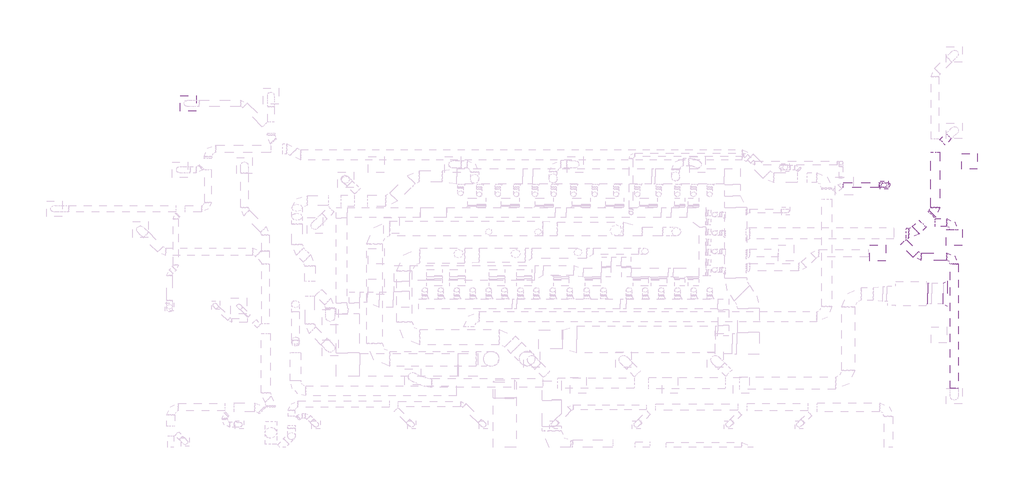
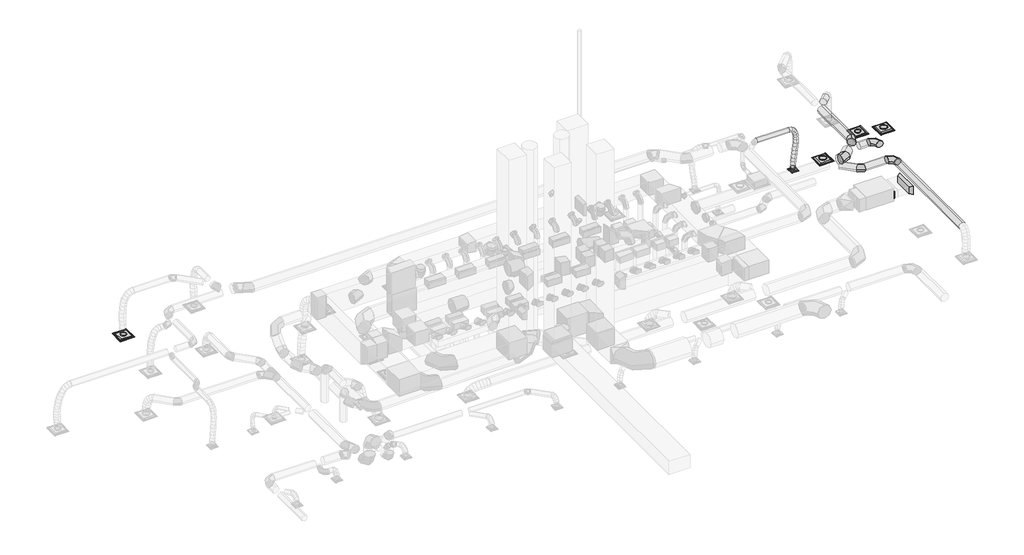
# One storey, part 31 of 33: 11 duct segments, 8 duct fittings, 5 air terminals.
"""IFC4 building model written with IfcOpenShell, lengths in millimetres."""

from ifc_helpers import new_model, si_unit, point, frame, frame_2d, origin, place, context, project, spatial, circle_curve, ellipse_curve, trimmed, segment, composite_curve, outline, extrude, transform, mapped, element, save
from ifc_brep_helpers import plane_surface, cylinder_surface, advanced_brep
from components import air_terminal_a17ada07, par_aa_06_12x12_e7d1e0c0, par_aa_10_24x24_32668ffe, rectangular_transition_angle_45_degree_4921c507, rectangular_transition_angle_60_degree_5c557b6e, round_elbow_1_d_28128332, round_elbow_1_d_30de4f45, round_elbow_1_d_146a3901, round_elbow_1_d_281bc45b, round_transition_angle_45_degree_998e22e1

model = new_model("IFC4")

# Units and contexts
model_context = context("Model", 3, world=origin())
ifc_project = project(units=[si_unit("LENGTHUNIT", "METRE", prefix="MILLI")], contexts=[model_context])

# Site, building, storey
site = spatial("IfcSite", under=ifc_project)
building = spatial("IfcBuilding", under=site)
storey = spatial("IfcBuildingStorey", under=building, Name="T.O. SLAB - 1ST", Elevation=-25.4)

# Air terminals
placement = place(None, origin())
air_terminal_shape = air_terminal_a17ada07(model_context)
element("IfcAirTerminal", 1, ObjectType="Titus-Round_Neck_Supply_Diffuser-PCS_Surface_Mount : PCS AA-12_24x24", at=placement, inside=storey, context=model_context, shape_type="MappedRepresentation", body=[
    mapped(air_terminal_shape, transform((33267.65, 27237.2115966, 4940.3), x_axis=(1.0, 0.0, 0.0), y_axis=(0.0, -1.0, 0.0), z_axis=(0.0, 0.0, -1.0))),
])
element("IfcAirTerminal", 2, ObjectType="Titus-Round_Neck_Supply_Diffuser-PCS_Surface_Mount : PCS AA-12_24x24", at=placement, inside=storey, context=model_context, shape_type="MappedRepresentation", body=[
    mapped(air_terminal_shape, transform((36315.65, 27856.3365966, 4940.3), x_axis=(1.0, 0.0, 0.0), y_axis=(0.0, -1.0, 0.0), z_axis=(0.0, 0.0, -1.0))),
])
par_aa_06_12x12_shape = par_aa_06_12x12_e7d1e0c0(model_context)
element("IfcAirTerminal", 3, ObjectType="Titus-Round_Neck_Exhaust_Diffuser-PAR_Surface_Mount : PAR AA-06_12x12", at=placement, inside=storey, context=model_context, shape_type="MappedRepresentation", body=[
    mapped(par_aa_06_12x12_shape, transform((33520.2823726, 29949.5108734, 2717.8), x_axis=(0.0, -1.0, 0.0), y_axis=(-1.0, 0.0, 0.0), z_axis=(0.0, 0.0, -1.0))),
])
par_aa_10_24x24_shape = par_aa_10_24x24_32668ffe(model_context)
element("IfcAirTerminal", 4, ObjectType="Titus-Round_Neck_Return_Diffuser-PAR_Surface_Mount : PAR AA-10_24x24", at=placement, inside=storey, context=model_context, shape_type="MappedRepresentation", body=[
    mapped(par_aa_10_24x24_shape, transform((36925.2541966, 30894.8115966, 2717.8), x_axis=(1.0, 0.0, 0.0), y_axis=(0.0, -1.0, 0.0), z_axis=(0.0, 0.0, -1.0))),
])
element("IfcAirTerminal", 5, ObjectType="Titus-Round_Neck_Exhaust_Diffuser-PAR_Surface_Mount : PAR AA-10_24x24", at=placement, inside=storey, context=model_context, shape_type="MappedRepresentation", body=[
    mapped(par_aa_10_24x24_shape, transform((5790.3208873, 33207.8645024, 2717.8), x_axis=(1.0, 0.0, 0.0), y_axis=(0.0, -1.0, 0.0), z_axis=(0.0, 0.0, -1.0))),
])

# Duct fittings
rectangular_transition_angle_45_degree_shape = rectangular_transition_angle_45_degree_4921c507(model_context)
element("IfcDuctFitting", 6, ObjectType="Rectangular Transition - Angle : 45 Degree", at=placement, inside=storey, context=model_context, shape_type="MappedRepresentation", body=[
    mapped(rectangular_transition_angle_45_degree_shape, transform((35250.8247003, 25617.7605666, 3814.7749971), x_axis=(1.0, 0.0, 0.0), y_axis=(0.0, 1.0, 0.0), z_axis=(0.0, 0.0, 1.0))),
])
rectangular_transition_angle_60_degree_shape = rectangular_transition_angle_60_degree_5c557b6e(model_context)
element("IfcDuctFitting", 7, ObjectType="Rectangular Transition - Angle : 60 Degree", at=placement, inside=storey, context=model_context, shape_type="MappedRepresentation", body=[
    mapped(rectangular_transition_angle_60_degree_shape, transform((36038.7688762, 25617.7605666, 3809.2900175), x_axis=(-0.9999999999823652, 0.0, -5.9388217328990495e-06), y_axis=(0.0, -1.0, 0.0), z_axis=(-5.9388217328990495e-06, 0.0, 0.9999999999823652))),
])
round_elbow_1_d_shape = round_elbow_1_d_28128332(model_context)
element("IfcDuctFitting", 8, ObjectType="Round Elbow : 1 D", at=placement, inside=storey, context=model_context, shape_type="MappedRepresentation", body=[
    mapped(round_elbow_1_d_shape, transform((34868.0558417, 27096.7603801, 4038.6), x_axis=(0.7071067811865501, -0.707106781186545, 0.0), y_axis=(0.707106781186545, 0.7071067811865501, 0.0), z_axis=(0.0, 0.0, 1.0))),
])
round_elbow_1_d_2_shape = round_elbow_1_d_30de4f45(model_context)
element("IfcDuctFitting", 9, ObjectType="Round Elbow : 1 D", at=placement, inside=storey, context=model_context, shape_type="MappedRepresentation", body=[
    mapped(round_elbow_1_d_2_shape, transform((34668.8369682, 28028.7984, 4038.6), x_axis=(1.0, 0.0, 0.0), y_axis=(0.0, 1.0, 0.0), z_axis=(0.0, 0.0, 1.0))),
])
round_elbow_1_d_3_shape = round_elbow_1_d_146a3901(model_context)
element("IfcDuctFitting", 10, ObjectType="Round Elbow : 1 D", at=placement, inside=storey, context=model_context, shape_type="MappedRepresentation", body=[
    mapped(round_elbow_1_d_3_shape, transform((35550.5577376, 28910.5191695, 4038.6), x_axis=(0.7071067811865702, 0.7071067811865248, 0.0), y_axis=(-0.7071067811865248, 0.7071067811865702, 0.0), z_axis=(0.0, 0.0, 1.0))),
])
round_elbow_1_d_4_shape = round_elbow_1_d_281bc45b(model_context)
element("IfcDuctFitting", 11, ObjectType="Round Elbow : 1 D", at=placement, inside=storey, context=model_context, shape_type="MappedRepresentation", body=[
    mapped(round_elbow_1_d_4_shape, transform((36315.6541966, 27096.7603801, 4038.6), x_axis=(0.0, 1.0, 0.0), y_axis=(-1.0, 0.0, 0.0), z_axis=(0.0, 0.0, 1.0))),
])
element("IfcDuctFitting", 12, ObjectType="Round Elbow : 1 D", at=placement, inside=storey, context=model_context, shape_type="MappedRepresentation", body=[
    mapped(round_elbow_1_d_4_shape, transform((36316.6563851, 28456.4086223, 4038.6), x_axis=(0.0, 1.0, 0.0), y_axis=(-1.0, 0.0, 0.0), z_axis=(0.0, 0.0, 1.0))),
])
round_transition_angle_45_degree_shape = round_transition_angle_45_degree_998e22e1(model_context)
element("IfcDuctFitting", 13, ObjectType="Round Transition - Angle : 45 Degree", at=placement, inside=storey, context=model_context, shape_type="MappedRepresentation", body=[
    mapped(round_transition_angle_45_degree_shape, transform((33520.2823726, 29949.5108734, 2787.65), x_axis=(0.0, 0.0, 1.0), y_axis=(-1.0, 0.0, 0.0), z_axis=(0.0, -1.0, 0.0))),
])

# Duct segments
element("IfcDuctSegment", 14, ObjectType="Flex - Round", at=placement, inside=storey, context=model_context, shape_type="AdvancedBrep", body=[
    advanced_brep(
    [(33317.082588, 30051.1109811, 4648.2), (33317.082588, 29949.5109811, 4546.6), (33317.082588, 29847.9109811, 4648.2), (33317.082588, 29949.5109811, 4749.8), (33332.5636628, 30051.1109811, 4648.2), (33323.5777686, 29949.5109811, 4546.6), (33332.5636612, 29847.9109811, 4648.2), (33341.5495554, 29949.5109811, 4749.8), (33520.2823818, 30051.1108734, 2848.9710245), (33621.8823726, 29949.5108643, 2848.9710245), (33520.2823634, 29847.9108734, 2848.9710245), (33418.6823726, 29949.5108826, 2848.9710245), (33431.5617157, 30051.1109796, 4630.5504049), (33396.0932325, 29949.51098, 4533.6717803), (33431.5617094, 29847.9109796, 4630.5504057), (33467.0301925, 29949.5109791, 4727.4290304), (33518.379412, 30051.1109752, 4580.2077286), (33450.5600368, 29949.5109772, 4502.0883035), (33518.3794003, 29847.9109752, 4580.2077326), (33586.1987755, 29949.5109731, 4658.3271576), (33580.6062321, 30051.1109684, 4501.0811354), (33491.4656375, 29949.5109728, 4450.0734196), (33580.6062169, 29847.9109684, 4501.0811438), (33669.7468115, 29949.510964, 4552.0888595), (33621.3127314, 30051.1109598, 4397.0797902), (33523.0455851, 29949.5109661, 4369.389571), (33621.3127149, 29847.9109598, 4397.0798021), (33719.5798613, 29949.5109535, 4424.7700213), (33643.5694663, 30051.1109497, 4272.1128571), (33542.4029856, 29949.5109573, 4260.7017966), (33643.5694494, 29847.9109497, 4272.1128712), (33744.7359301, 29949.5109421, 4283.5239317), (33650.4469927, 30051.1109387, 4130.0894998), (33548.7609218, 29949.5109472, 4129.4081597), (33650.4469757, 29847.9109387, 4130.089515), (33752.1330465, 29949.5109303, 4130.7708551), (33645.0158663, 30051.1109273, 3974.918882), (33543.5740167, 29949.5109362, 3981.2150921), (33645.0158493, 29847.9109273, 3974.9188976), (33746.457699, 29949.5109183, 3968.6226875), (33630.3466429, 30051.1109158, 3810.5101674), (33529.2983669, 29949.5109251, 3821.2174444), (33630.3466259, 29847.9109158, 3810.5101829), (33731.394902, 29949.5109066, 3799.8029059), (33609.5098782, 30051.1109048, 3640.7725199), (33508.7707689, 29949.5109143, 3653.9982898), (33609.5098611, 29847.9109048, 3640.7725347), (33710.2489703, 29949.5108954, 3627.5467647), (33585.5761277, 30051.1108948, 3469.6151033), (33484.970433, 29949.5109043, 3483.7949609), (33585.5761105, 29847.9108948, 3469.6151169), (33686.1818051, 29949.5108853, 3455.4352593), (33561.6159472, 30051.1108862, 3300.9470814), (33460.9334915, 29949.5108956, 3314.5865786), (33561.6159297, 29847.9108862, 3300.9470932), (33662.2983854, 29949.5108767, 3287.3075961), (33540.6998923, 30051.1108794, 3138.6776183), (33439.7315721, 29949.5108888, 3150.0993415), (33540.6998745, 29847.9108794, 3138.6776275), (33641.6681947, 29949.51087, 3127.2559044), (33525.8985187, 30051.110875, 2986.715878), (33424.5057061, 29949.5108842, 2993.7794521), (33525.8985005, 29847.910875, 2986.7158834), (33627.291313, 29949.5108658, 2979.6523093), (33520.2823818, 30051.1108734, 2853.1100228), (33418.6823726, 29949.5108826, 2855.2444648), (33520.2823634, 29847.9108734, 2853.1100244), (33621.8823726, 29949.5108643, 2850.9755824)],
    [
        (0, 1, circle_curve(frame((33317.082588, 29949.5109811, 4648.2), z_axis=(-1.0, 0.0, 0.0), x_axis=(0.0, 1.0, 0.0)), 101.6)),
        (1, 2, circle_curve(frame((33317.082588, 29949.5109811, 4648.2), z_axis=(-1.0, 0.0, 0.0), x_axis=(0.0, 1.0, 0.0)), 101.6)),
        (2, 3, circle_curve(frame((33317.082588, 29949.5109811, 4648.2), z_axis=(-1.0, 0.0, 0.0), x_axis=(0.0, 1.0, 0.0)), 101.6)),
        (3, 0, circle_curve(frame((33317.082588, 29949.5109811, 4648.2), z_axis=(-1.0, 0.0, 0.0), x_axis=(0.0, 1.0, 0.0)), 101.6)),
        (0, 4),
        (4, 5, ellipse_curve(frame((33332.563662, 29949.5109811, 4648.2), z_axis=(-0.9961116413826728, 7.836384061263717e-09, 0.08809993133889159), x_axis=(-0.08809993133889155, -8.860294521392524e-08, -0.9961116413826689)), 101.9965994, 101.6)),
        (5, 1),
        (5, 6, ellipse_curve(frame((33332.563662, 29949.5109811, 4648.2), z_axis=(-0.9961116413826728, 7.836384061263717e-09, 0.08809993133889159), x_axis=(-0.08809993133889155, -8.860294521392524e-08, -0.9961116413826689)), 101.9965994, 101.6)),
        (6, 2),
        (6, 7, ellipse_curve(frame((33332.563662, 29949.5109811, 4648.2), z_axis=(-0.9961116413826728, 7.836384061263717e-09, 0.08809993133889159), x_axis=(-0.08809993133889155, -8.860294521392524e-08, -0.9961116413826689)), 101.9965994, 101.6)),
        (7, 3),
        (7, 4, ellipse_curve(frame((33332.563662, 29949.5109811, 4648.2), z_axis=(-0.9961116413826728, 7.836384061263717e-09, 0.08809993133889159), x_axis=(-0.08809993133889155, -8.860294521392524e-08, -0.9961116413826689)), 101.9965994, 101.6)),
        (8, 9, circle_curve(frame((33520.2823726, 29949.5108734, 2848.9710245), z_axis=(0.0, 0.0, -1.0), x_axis=(9.039294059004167e-08, 0.9999999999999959, 0.0)), 101.6)),
        (9, 10, circle_curve(frame((33520.2823726, 29949.5108734, 2848.9710245), z_axis=(0.0, 0.0, -1.0), x_axis=(9.039294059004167e-08, 0.9999999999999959, 0.0)), 101.6)),
        (10, 11, circle_curve(frame((33520.2823726, 29949.5108734, 2848.9710245), z_axis=(0.0, 0.0, -1.0), x_axis=(9.039294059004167e-08, 0.9999999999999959, 0.0)), 101.6)),
        (11, 8, circle_curve(frame((33520.2823726, 29949.5108734, 2848.9710245), z_axis=(0.0, 0.0, -1.0), x_axis=(9.039294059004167e-08, 0.9999999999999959, 0.0)), 101.6)),
        (4, 12),
        (12, 13, ellipse_curve(frame((33431.5617125, 29949.5109796, 4630.5504053), z_axis=(-0.9390443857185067, 3.016456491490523e-08, 0.34379593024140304), x_axis=(-0.34379593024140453, -8.116940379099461e-08, -0.9390443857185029)), 103.167248, 101.6)),
        (13, 5),
        (13, 14, ellipse_curve(frame((33431.5617125, 29949.5109796, 4630.5504053), z_axis=(-0.9390443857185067, 3.016456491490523e-08, 0.34379593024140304), x_axis=(-0.34379593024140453, -8.116940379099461e-08, -0.9390443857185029)), 103.167248, 101.6)),
        (14, 6),
        (14, 15, ellipse_curve(frame((33431.5617125, 29949.5109796, 4630.5504053), z_axis=(-0.9390443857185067, 3.016456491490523e-08, 0.34379593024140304), x_axis=(-0.34379593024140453, -8.116940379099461e-08, -0.9390443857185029)), 103.167248, 101.6)),
        (15, 7),
        (15, 12, ellipse_curve(frame((33431.5617125, 29949.5109796, 4630.5504053), z_axis=(-0.9390443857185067, 3.016456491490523e-08, 0.34379593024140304), x_axis=(-0.34379593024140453, -8.116940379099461e-08, -0.9390443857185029)), 103.167248, 101.6)),
        (12, 16),
        (16, 17, ellipse_curve(frame((33518.3794062, 29949.5109752, 4580.2077306), z_axis=(-0.7551344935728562, 5.6440841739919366e-08, 0.6555699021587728), x_axis=(-0.6555699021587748, -6.175673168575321e-08, -0.755134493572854)), 103.4510113, 101.6)),
        (17, 13),
        (17, 18, ellipse_curve(frame((33518.3794062, 29949.5109752, 4580.2077306), z_axis=(-0.7551344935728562, 5.6440841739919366e-08, 0.6555699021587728), x_axis=(-0.6555699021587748, -6.175673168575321e-08, -0.755134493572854)), 103.4510113, 101.6)),
        (18, 14),
        (18, 19, ellipse_curve(frame((33518.3794062, 29949.5109752, 4580.2077306), z_axis=(-0.7551344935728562, 5.6440841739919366e-08, 0.6555699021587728), x_axis=(-0.6555699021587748, -6.175673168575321e-08, -0.755134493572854)), 103.4510113, 101.6)),
        (19, 15),
        (19, 16, ellipse_curve(frame((33518.3794062, 29949.5109752, 4580.2077306), z_axis=(-0.7551344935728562, 5.6440841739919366e-08, 0.6555699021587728), x_axis=(-0.6555699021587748, -6.175673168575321e-08, -0.755134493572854)), 103.4510113, 101.6)),
        (16, 20),
        (20, 21, ellipse_curve(frame((33580.6062245, 29949.5109684, 4501.0811396), z_axis=(-0.49665443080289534, 7.297002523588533e-08, 0.8679483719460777), x_axis=(-0.8679483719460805, -3.507227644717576e-08, -0.49665443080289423)), 102.7026375, 101.6)),
        (21, 17),
        (21, 22, ellipse_curve(frame((33580.6062245, 29949.5109684, 4501.0811396), z_axis=(-0.49665443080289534, 7.297002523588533e-08, 0.8679483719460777), x_axis=(-0.8679483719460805, -3.507227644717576e-08, -0.49665443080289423)), 102.7026375, 101.6)),
        (22, 18),
        (22, 23, ellipse_curve(frame((33580.6062245, 29949.5109684, 4501.0811396), z_axis=(-0.49665443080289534, 7.297002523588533e-08, 0.8679483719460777), x_axis=(-0.8679483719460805, -3.507227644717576e-08, -0.49665443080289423)), 102.7026375, 101.6)),
        (23, 19),
        (23, 20, ellipse_curve(frame((33580.6062245, 29949.5109684, 4501.0811396), z_axis=(-0.49665443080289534, 7.297002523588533e-08, 0.8679483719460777), x_axis=(-0.8679483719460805, -3.507227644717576e-08, -0.49665443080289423)), 102.7026375, 101.6)),
        (20, 24),
        (24, 25, ellipse_curve(frame((33621.3127232, 29949.5109598, 4397.0797961), z_axis=(-0.27122292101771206, 7.861400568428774e-08, 0.9625165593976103), x_axis=(-0.9625165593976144, -9.379406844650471e-09, -0.27122292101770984)), 102.0939714, 101.6)),
        (25, 21),
        (25, 26, ellipse_curve(frame((33621.3127232, 29949.5109598, 4397.0797961), z_axis=(-0.27122292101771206, 7.861400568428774e-08, 0.9625165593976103), x_axis=(-0.9625165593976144, -9.379406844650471e-09, -0.27122292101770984)), 102.0939714, 101.6)),
        (26, 22),
        (26, 27, ellipse_curve(frame((33621.3127232, 29949.5109598, 4397.0797961), z_axis=(-0.27122292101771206, 7.861400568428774e-08, 0.9625165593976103), x_axis=(-0.9625165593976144, -9.379406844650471e-09, -0.27122292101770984)), 102.0939714, 101.6)),
        (27, 23),
        (27, 24, ellipse_curve(frame((33621.3127232, 29949.5109598, 4397.0797961), z_axis=(-0.27122292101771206, 7.861400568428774e-08, 0.9625165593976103), x_axis=(-0.9625165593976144, -9.379406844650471e-09, -0.27122292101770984)), 102.0939714, 101.6)),
        (24, 28),
        (28, 29, ellipse_curve(frame((33643.5694578, 29949.5109497, 4272.1128641), z_axis=(-0.11208420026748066, 7.838109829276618e-08, 0.9936987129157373), x_axis=(-0.9936987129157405, 1.4622453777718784e-08, -0.11208420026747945)), 101.8079936, 101.6)),
        (29, 25),
        (29, 30, ellipse_curve(frame((33643.5694578, 29949.5109497, 4272.1128641), z_axis=(-0.11208420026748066, 7.838109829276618e-08, 0.9936987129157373), x_axis=(-0.9936987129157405, 1.4622453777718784e-08, -0.11208420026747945)), 101.8079936, 101.6)),
        (30, 26),
        (30, 31, ellipse_curve(frame((33643.5694578, 29949.5109497, 4272.1128641), z_axis=(-0.11208420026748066, 7.838109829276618e-08, 0.9936987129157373), x_axis=(-0.9936987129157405, 1.4622453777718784e-08, -0.11208420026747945)), 101.8079936, 101.6)),
        (31, 27),
        (31, 28, ellipse_curve(frame((33643.5694578, 29949.5109497, 4272.1128641), z_axis=(-0.11208420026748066, 7.838109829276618e-08, 0.9936987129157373), x_axis=(-0.9936987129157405, 1.4622453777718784e-08, -0.11208420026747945)), 101.8079936, 101.6)),
        (28, 32),
        (32, 33, ellipse_curve(frame((33650.4469842, 29949.5109387, 4130.0895074), z_axis=(-0.006700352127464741, 7.561473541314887e-08, 0.9999775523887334), x_axis=(-0.9999775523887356, 4.169658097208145e-08, -0.006700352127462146)), 101.688345, 101.6)),
        (33, 29),
        (33, 34, ellipse_curve(frame((33650.4469842, 29949.5109387, 4130.0895074), z_axis=(-0.006700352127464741, 7.561473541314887e-08, 0.9999775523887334), x_axis=(-0.9999775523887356, 4.169658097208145e-08, -0.006700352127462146)), 101.688345, 101.6)),
        (34, 30),
        (34, 35, ellipse_curve(frame((33650.4469842, 29949.5109387, 4130.0895074), z_axis=(-0.006700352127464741, 7.561473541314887e-08, 0.9999775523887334), x_axis=(-0.9999775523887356, 4.169658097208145e-08, -0.006700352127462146)), 101.688345, 101.6)),
        (35, 31),
        (35, 32, ellipse_curve(frame((33650.4469842, 29949.5109387, 4130.0895074), z_axis=(-0.006700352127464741, 7.561473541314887e-08, 0.9999775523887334), x_axis=(-0.9999775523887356, 4.169658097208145e-08, -0.006700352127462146)), 101.688345, 101.6)),
        (32, 36),
        (36, 37, ellipse_curve(frame((33645.0158578, 29949.5109273, 3974.9188898), z_axis=(0.06194790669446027, 7.164712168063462e-08, 0.9980793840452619), x_axis=(-0.9980793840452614, 8.113052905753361e-08, 0.06194790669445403)), 101.6370469, 101.6)),
        (37, 33),
        (37, 38, ellipse_curve(frame((33645.0158578, 29949.5109273, 3974.9188898), z_axis=(0.06194790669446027, 7.164712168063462e-08, 0.9980793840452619), x_axis=(-0.9980793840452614, 8.113052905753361e-08, 0.06194790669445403)), 101.6370469, 101.6)),
        (38, 34),
        (38, 39, ellipse_curve(frame((33645.0158578, 29949.5109273, 3974.9188898), z_axis=(0.06194790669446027, 7.164712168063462e-08, 0.9980793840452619), x_axis=(-0.9980793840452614, 8.113052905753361e-08, 0.06194790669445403)), 101.6370469, 101.6)),
        (39, 35),
        (39, 36, ellipse_curve(frame((33645.0158578, 29949.5109273, 3974.9188898), z_axis=(0.06194790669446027, 7.164712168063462e-08, 0.9980793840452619), x_axis=(-0.9980793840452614, 8.113052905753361e-08, 0.06194790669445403)), 101.6370469, 101.6)),
        (36, 40),
        (40, 41, ellipse_curve(frame((33630.3466344, 29949.5109158, 3810.5101751), z_axis=(0.10537202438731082, 6.685502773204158e-08, 0.9944328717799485), x_axis=(-0.9944328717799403, 1.559125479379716e-07, 0.10537202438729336)), 101.6139655, 101.6)),
        (41, 37),
        (41, 42, ellipse_curve(frame((33630.3466344, 29949.5109158, 3810.5101751), z_axis=(0.10537202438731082, 6.685502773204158e-08, 0.9944328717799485), x_axis=(-0.9944328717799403, 1.559125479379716e-07, 0.10537202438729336)), 101.6139655, 101.6)),
        (42, 38),
        (42, 43, ellipse_curve(frame((33630.3466344, 29949.5109158, 3810.5101751), z_axis=(0.10537202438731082, 6.685502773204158e-08, 0.9944328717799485), x_axis=(-0.9944328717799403, 1.559125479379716e-07, 0.10537202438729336)), 101.6139655, 101.6)),
        (43, 39),
        (43, 40, ellipse_curve(frame((33630.3466344, 29949.5109158, 3810.5101751), z_axis=(0.10537202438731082, 6.685502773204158e-08, 0.9944328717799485), x_axis=(-0.9944328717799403, 1.559125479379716e-07, 0.10537202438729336)), 101.6139655, 101.6)),
        (40, 44),
        (44, 45, ellipse_curve(frame((33609.5098696, 29949.5109048, 3640.7725273), z_axis=(0.130170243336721, 6.120128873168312e-08, 0.9914916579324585), x_axis=(-0.9914916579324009, 3.648096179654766e-07, 0.1301702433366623)), 101.6035787, 101.6)),
        (45, 41),
        (45, 46, ellipse_curve(frame((33609.5098696, 29949.5109048, 3640.7725273), z_axis=(0.130170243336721, 6.120128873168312e-08, 0.9914916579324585), x_axis=(-0.9914916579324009, 3.648096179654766e-07, 0.1301702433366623)), 101.6035787, 101.6)),
        (46, 42),
        (46, 47, ellipse_curve(frame((33609.5098696, 29949.5109048, 3640.7725273), z_axis=(0.130170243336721, 6.120128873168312e-08, 0.9914916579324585), x_axis=(-0.9914916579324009, 3.648096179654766e-07, 0.1301702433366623)), 101.6035787, 101.6)),
        (47, 43),
        (47, 44, ellipse_curve(frame((33609.5098696, 29949.5109048, 3640.7725273), z_axis=(0.130170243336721, 6.120128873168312e-08, 0.9914916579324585), x_axis=(-0.9914916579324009, 3.648096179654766e-07, 0.1301702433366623)), 101.6035787, 101.6)),
        (44, 48),
        (48, 49, ellipse_curve(frame((33585.5761191, 29949.5108948, 3469.6151101), z_axis=(0.13956537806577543, 5.441043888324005e-08, 0.9902128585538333), x_axis=(-0.9902128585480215, 3.423399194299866e-06, 0.13956537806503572)), 101.6000602, 101.6)),
        (49, 45),
        (49, 50, ellipse_curve(frame((33585.5761191, 29949.5108948, 3469.6151101), z_axis=(0.13956537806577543, 5.441043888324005e-08, 0.9902128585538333), x_axis=(-0.9902128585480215, 3.423399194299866e-06, 0.13956537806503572)), 101.6000602, 101.6)),
        (50, 46),
        (50, 51, ellipse_curve(frame((33585.5761191, 29949.5108948, 3469.6151101), z_axis=(0.13956537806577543, 5.441043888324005e-08, 0.9902128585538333), x_axis=(-0.9902128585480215, 3.423399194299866e-06, 0.13956537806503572)), 101.6000602, 101.6)),
        (51, 47),
        (51, 48, ellipse_curve(frame((33585.5761191, 29949.5108948, 3469.6151101), z_axis=(0.13956537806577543, 5.441043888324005e-08, 0.9902128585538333), x_axis=(-0.9902128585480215, 3.423399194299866e-06, 0.13956537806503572)), 101.6000602, 101.6)),
        (48, 52),
        (52, 53, ellipse_curve(frame((33561.6159385, 29949.5108862, 3300.9470873), z_axis=(0.1342441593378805, 4.5972722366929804e-08, 0.9909482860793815), x_axis=(0.9909482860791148, 7.29333207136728e-07, -0.13424415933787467)), 101.6021203, 101.6)),
        (53, 49),
        (53, 54, ellipse_curve(frame((33561.6159385, 29949.5108862, 3300.9470873), z_axis=(0.1342441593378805, 4.5972722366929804e-08, 0.9909482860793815), x_axis=(0.9909482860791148, 7.29333207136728e-07, -0.13424415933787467)), 101.6021203, 101.6)),
        (54, 50),
        (54, 55, ellipse_curve(frame((33561.6159385, 29949.5108862, 3300.9470873), z_axis=(0.1342441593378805, 4.5972722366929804e-08, 0.9909482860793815), x_axis=(0.9909482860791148, 7.29333207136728e-07, -0.13424415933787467)), 101.6021203, 101.6)),
        (55, 51),
        (55, 52, ellipse_curve(frame((33561.6159385, 29949.5108862, 3300.9470873), z_axis=(0.1342441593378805, 4.5972722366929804e-08, 0.9909482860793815), x_axis=(0.9909482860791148, 7.29333207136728e-07, -0.13424415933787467)), 101.6021203, 101.6)),
        (52, 56),
        (56, 57, ellipse_curve(frame((33540.6998834, 29949.5108794, 3138.6776229), z_axis=(0.11240490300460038, 3.502946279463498e-08, 0.9936624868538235), x_axis=(0.9936624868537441, 4.010349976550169e-07, -0.11240490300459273)), 101.6122805, 101.6)),
        (57, 53),
        (57, 58, ellipse_curve(frame((33540.6998834, 29949.5108794, 3138.6776229), z_axis=(0.11240490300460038, 3.502946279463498e-08, 0.9936624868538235), x_axis=(0.9936624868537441, 4.010349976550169e-07, -0.11240490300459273)), 101.6122805, 101.6)),
        (58, 54),
        (58, 59, ellipse_curve(frame((33540.6998834, 29949.5108794, 3138.6776229), z_axis=(0.11240490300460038, 3.502946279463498e-08, 0.9936624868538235), x_axis=(0.9936624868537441, 4.010349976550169e-07, -0.11240490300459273)), 101.6122805, 101.6)),
        (59, 55),
        (59, 56, ellipse_curve(frame((33540.6998834, 29949.5108794, 3138.6776229), z_axis=(0.11240490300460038, 3.502946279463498e-08, 0.9936624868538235), x_axis=(0.9936624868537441, 4.010349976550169e-07, -0.11240490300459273)), 101.6122805, 101.6)),
        (56, 60),
        (60, 61, ellipse_curve(frame((33525.8985096, 29949.510875, 2986.7158807), z_axis=(0.06949697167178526, 2.0272902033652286e-08, 0.9975821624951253), x_axis=(0.9975821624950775, 3.0956877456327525e-07, -0.06949697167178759)), 101.638549, 101.6)),
        (61, 57),
        (61, 62, ellipse_curve(frame((33525.8985096, 29949.510875, 2986.7158807), z_axis=(0.06949697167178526, 2.0272902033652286e-08, 0.9975821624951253), x_axis=(0.9975821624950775, 3.0956877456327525e-07, -0.06949697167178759)), 101.638549, 101.6)),
        (62, 58),
        (62, 63, ellipse_curve(frame((33525.8985096, 29949.510875, 2986.7158807), z_axis=(0.06949697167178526, 2.0272902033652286e-08, 0.9975821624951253), x_axis=(0.9975821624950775, 3.0956877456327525e-07, -0.06949697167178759)), 101.638549, 101.6)),
        (63, 59),
        (63, 60, ellipse_curve(frame((33525.8985096, 29949.510875, 2986.7158807), z_axis=(0.06949697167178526, 2.0272902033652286e-08, 0.9975821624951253), x_axis=(0.9975821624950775, 3.0956877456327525e-07, -0.06949697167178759)), 101.638549, 101.6)),
        (60, 64),
        (64, 65, ellipse_curve(frame((33520.2823726, 29949.5108734, 2853.1100236), z_axis=(0.021003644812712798, 5.871267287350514e-09, 0.9997793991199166), x_axis=(0.9997793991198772, 2.7947397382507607e-07, -0.021003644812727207)), 101.622418, 101.6)),
        (65, 61),
        (65, 66, ellipse_curve(frame((33520.2823726, 29949.5108734, 2853.1100236), z_axis=(0.021003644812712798, 5.871267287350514e-09, 0.9997793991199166), x_axis=(0.9997793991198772, 2.7947397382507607e-07, -0.021003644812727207)), 101.622418, 101.6)),
        (66, 62),
        (66, 67, ellipse_curve(frame((33520.2823726, 29949.5108734, 2853.1100236), z_axis=(0.021003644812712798, 5.871267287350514e-09, 0.9997793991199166), x_axis=(0.9997793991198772, 2.7947397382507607e-07, -0.021003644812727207)), 101.622418, 101.6)),
        (67, 63),
        (67, 64, ellipse_curve(frame((33520.2823726, 29949.5108734, 2853.1100236), z_axis=(0.021003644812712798, 5.871267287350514e-09, 0.9997793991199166), x_axis=(0.9997793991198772, 2.7947397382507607e-07, -0.021003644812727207)), 101.622418, 101.6)),
        (64, 8),
        (11, 65),
        (10, 66),
        (9, 67),
    ],
    [
        plane_surface(frame((33317.082588, 29949.5109811, 4546.6), z_axis=(-1.0, 0.0, 0.0), x_axis=(0.0, 1.0, 0.0))),
        cylinder_surface(frame((33317.082588, 29949.5109811, 4648.2), z_axis=(-1.0, 0.0, 0.0), x_axis=(0.0, 1.0, 0.0)), 101.6),
        plane_surface(frame((33520.2823726, 29847.9108734, 2848.9710245), z_axis=(0.0, 0.0, -1.0), x_axis=(-1.0, 0.0, 0.0))),
        cylinder_surface(frame((33332.563662, 29949.5109811, 4648.2), z_axis=(-0.9844768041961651, 1.5611826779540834e-08, 0.17551473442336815), x_axis=(1.5611826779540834e-08, 0.9999999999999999, -1.380769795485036e-09)), 101.6),
        cylinder_surface(frame((33431.5617125, 29949.5109796, 4630.5504053), z_axis=(-0.8650812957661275, 4.38008231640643e-08, 0.5016316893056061), x_axis=(4.38388692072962e-08, 0.999999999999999, -1.1715044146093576e-08)), 101.6),
        cylinder_surface(frame((33518.3794062, 29949.5109752, 4580.2077306), z_axis=(-0.6181649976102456, 6.706110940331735e-08, 0.7860483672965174), x_axis=(6.748449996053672e-08, 0.9999999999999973, -3.2242995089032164e-08)), 101.6),
        cylinder_surface(frame((33580.6062245, 29949.5109684, 4501.0811396), z_axis=(-0.36447948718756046, 7.731209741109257e-08, 0.9312114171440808), x_axis=(7.887605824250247e-08, 0.9999999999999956, -5.2150769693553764e-08)), 101.6),
        cylinder_surface(frame((33621.3127232, 29949.5109598, 4397.0797961), z_axis=(-0.17534178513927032, 7.915518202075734e-08, 0.9845076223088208), x_axis=(8.268675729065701e-08, 0.9999999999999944, -6.567418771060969e-08)), 101.6),
        cylinder_surface(frame((33643.5694578, 29949.5109497, 4272.1128641), z_axis=(-0.048368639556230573, 7.728674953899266e-08, 0.9988295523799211), x_axis=(8.355044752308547e-08, 0.9999999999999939, -7.333135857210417e-08)), 101.6),
        cylinder_surface(frame((33650.4469842, 29949.5109387, 4130.0895074), z_axis=(0.03497957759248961, 7.381133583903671e-08, 0.9993880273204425), x_axis=(8.357356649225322e-08, 0.9999999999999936, -7.678169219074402e-08)), 101.6),
        cylinder_surface(frame((33645.0158578, 29949.5109273, 3974.9188898), z_axis=(0.08887107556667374, 6.943067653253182e-08, 0.9960431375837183), x_axis=(8.35500132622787e-08, 0.9999999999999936, -7.716117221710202e-08)), 101.6),
        cylinder_surface(frame((33630.3466344, 29949.5109158, 3810.5101751), z_axis=(0.12184400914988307, 6.426100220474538e-08, 0.9925492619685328), x_axis=(8.37760877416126e-08, 0.9999999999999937, -7.502762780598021e-08)), 101.6),
        cylinder_surface(frame((33609.5098696, 29949.5109048, 3640.7725273), z_axis=(0.1384873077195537, 5.8137263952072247e-08, 0.9903642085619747), x_axis=(8.437039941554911e-08, 0.999999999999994, -7.050082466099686e-08)), 101.6),
        cylinder_surface(frame((33585.5761191, 29949.5108948, 3469.6151101), z_axis=(0.1406432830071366, 5.068354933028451e-08, 0.9900603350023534), x_axis=(8.538230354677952e-08, 0.9999999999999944, -6.332139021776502e-08)), 101.6),
        cylinder_surface(frame((33561.6159385, 29949.5108862, 3300.9470873), z_axis=(0.1278394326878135, 4.125997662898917e-08, 0.9917948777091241), x_axis=(8.680889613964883e-08, 0.9999999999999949, -5.279073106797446e-08)), 101.6),
        cylinder_surface(frame((33540.6998834, 29949.5108794, 3138.6776229), z_axis=(0.09694320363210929, 2.879048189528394e-08, 0.9952899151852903), x_axis=(8.8532953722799e-08, 0.9999999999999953, -3.755001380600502e-08)), 101.6),
        cylinder_surface(frame((33525.8985096, 29949.510875, 2986.7158807), z_axis=(0.04199802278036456, 1.1739944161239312e-08, 0.9991176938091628), x_axis=(9.006655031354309e-08, 0.9999999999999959, -1.5536268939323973e-08)), 101.6),
        cylinder_surface(frame((33520.2823726, 29949.5108734, 2853.1100236), z_axis=(0.0, 0.0, 1.0), x_axis=(9.039294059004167e-08, 0.9999999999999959, 0.0)), 101.6),
    ],
    [
        (0, [[1, 2, 3, 4]]),
        (1, [[-1, 5, 6, 7]]),
        (1, [[-2, -7, 8, 9]]),
        (1, [[-3, -9, 10, 11]]),
        (1, [[-4, -11, 12, -5]]),
        (2, [[13, 14, 15, 16]]),
        (3, [[-6, 17, 18, 19]]),
        (3, [[-8, -19, 20, 21]]),
        (3, [[-10, -21, 22, 23]]),
        (3, [[-12, -23, 24, -17]]),
        (4, [[-18, 25, 26, 27]]),
        (4, [[-20, -27, 28, 29]]),
        (4, [[-22, -29, 30, 31]]),
        (4, [[-24, -31, 32, -25]]),
        (5, [[-26, 33, 34, 35]]),
        (5, [[-28, -35, 36, 37]]),
        (5, [[-30, -37, 38, 39]]),
        (5, [[-32, -39, 40, -33]]),
        (6, [[-34, 41, 42, 43]]),
        (6, [[-36, -43, 44, 45]]),
        (6, [[-38, -45, 46, 47]]),
        (6, [[-40, -47, 48, -41]]),
        (7, [[-42, 49, 50, 51]]),
        (7, [[-44, -51, 52, 53]]),
        (7, [[-46, -53, 54, 55]]),
        (7, [[-48, -55, 56, -49]]),
        (8, [[-50, 57, 58, 59]]),
        (8, [[-52, -59, 60, 61]]),
        (8, [[-54, -61, 62, 63]]),
        (8, [[-56, -63, 64, -57]]),
        (9, [[-58, 65, 66, 67]]),
        (9, [[-60, -67, 68, 69]]),
        (9, [[-62, -69, 70, 71]]),
        (9, [[-64, -71, 72, -65]]),
        (10, [[-66, 73, 74, 75]]),
        (10, [[-68, -75, 76, 77]]),
        (10, [[-70, -77, 78, 79]]),
        (10, [[-72, -79, 80, -73]]),
        (11, [[-74, 81, 82, 83]]),
        (11, [[-76, -83, 84, 85]]),
        (11, [[-78, -85, 86, 87]]),
        (11, [[-80, -87, 88, -81]]),
        (12, [[-82, 89, 90, 91]]),
        (12, [[-84, -91, 92, 93]]),
        (12, [[-86, -93, 94, 95]]),
        (12, [[-88, -95, 96, -89]]),
        (13, [[-90, 97, 98, 99]]),
        (13, [[-92, -99, 100, 101]]),
        (13, [[-94, -101, 102, 103]]),
        (13, [[-96, -103, 104, -97]]),
        (14, [[-98, 105, 106, 107]]),
        (14, [[-100, -107, 108, 109]]),
        (14, [[-102, -109, 110, 111]]),
        (14, [[-104, -111, 112, -105]]),
        (15, [[-106, 113, 114, 115]]),
        (15, [[-108, -115, 116, 117]]),
        (15, [[-110, -117, 118, 119]]),
        (15, [[-112, -119, 120, -113]]),
        (16, [[-114, 121, 122, 123]]),
        (16, [[-116, -123, 124, 125]]),
        (16, [[-118, -125, 126, 127]]),
        (16, [[-120, -127, 128, -121]]),
        (17, [[-122, 129, -16, 130]]),
        (17, [[-124, -130, -15, 131]]),
        (17, [[-126, -131, -14, 132]]),
        (17, [[-128, -132, -13, -129]]),
    ],
),
])
element("IfcDuctSegment", 15, ObjectType="Taps", at=placement, inside=storey, context=model_context, shape_type="SweptSolid", body=[
    extrude(outline(composite_curve([segment(trimmed(circle_curve(frame_2d((28028.7984, 4038.6)), 203.2), [point((27825.5984, 4038.6))], [point((28028.7984, 4241.8))], False, "CARTESIAN"), True, "CONTINUOUS"), segment(trimmed(circle_curve(frame_2d((28028.7984, 4038.6)), 203.2), [point((28028.7984, 4241.8))], [point((28231.9984, 4038.6))], False, "CARTESIAN"), True, "CONTINUOUS"), segment(trimmed(circle_curve(frame_2d((28028.7984, 4038.6)), 203.2), [point((28231.9984, 4038.6))], [point((28028.7984, 3835.4))], False, "CARTESIAN"), True, "CONTINUOUS"), segment(trimmed(circle_curve(frame_2d((28028.7984, 4038.6)), 203.2), [point((28028.7984, 3835.4))], [point((27825.5984, 4038.6))], False, "CARTESIAN"), True, "CONTINUOUS")], self_intersect=False)), frame((34408.0626995, 0.0, 0.0), z_axis=(1.0, 0.0, 0.0), x_axis=(0.0, 1.0, 0.0)), (0.0, 0.0, 1.0), 92.4378769),
])
element("IfcDuctSegment", 16, ObjectType="Taps", at=placement, inside=storey, context=model_context, shape_type="SweptSolid", body=[
    extrude(outline(composite_curve([segment(trimmed(circle_curve(frame_2d((0.0, 177.8)), 177.8), [point((177.8, 177.8))], [point((0.0, 0.0))], False, "CARTESIAN"), True, "CONTINUOUS"), segment(trimmed(circle_curve(frame_2d((0.0, 177.8)), 177.8), [point((0.0, 0.0))], [point((-177.8, 177.8))], False, "CARTESIAN"), True, "CONTINUOUS"), segment(trimmed(circle_curve(frame_2d((0.0, 177.8)), 177.8), [point((-177.8, 177.8))], [point((0.0, 355.6))], False, "CARTESIAN"), True, "CONTINUOUS"), segment(trimmed(circle_curve(frame_2d((0.0, 177.8)), 177.8), [point((0.0, 355.6))], [point((177.8, 177.8))], False, "CARTESIAN"), True, "CONTINUOUS")], self_intersect=False)), frame((35412.2728123, 28772.2342441, 4216.4), z_axis=(0.7071067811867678, 0.7071067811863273, 0.0), x_axis=(0.7071067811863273, -0.7071067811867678, 0.0)), (0.0, 0.0, 1.0), 48.2700741),
])
element("IfcDuctSegment", 17, ObjectType="Taps", at=placement, inside=storey, context=model_context, shape_type="SweptSolid", body=[
    extrude(outline(composite_curve([segment(trimmed(circle_curve(frame_2d((0.0, 203.2)), 203.2), [point((203.1999999, 203.2))], [point((0.0, 0.0))], False, "CARTESIAN"), True, "CONTINUOUS"), segment(trimmed(circle_curve(frame_2d((0.0, 203.2)), 203.2), [point((0.0, 0.0))], [point((-203.2, 203.2))], False, "CARTESIAN"), True, "CONTINUOUS"), segment(trimmed(circle_curve(frame_2d((0.0, 203.2)), 203.2), [point((-203.2, 203.2))], [point((0.0, 406.4))], False, "CARTESIAN"), True, "CONTINUOUS"), segment(trimmed(circle_curve(frame_2d((0.0, 203.2)), 203.2), [point((0.0, 406.4))], [point((203.1999999, 203.2))], False, "CARTESIAN"), True, "CONTINUOUS")], self_intersect=False)), frame((34787.8687723, 28147.8302041, 4241.8), z_axis=(0.7071067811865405, 0.7071067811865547, 0.0), x_axis=(0.7071067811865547, -0.7071067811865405, 0.0)), (0.0, 0.0, 1.0), 370.7509063),
])
element("IfcDuctSegment", 18, ObjectType="Taps", at=placement, inside=storey, context=model_context, shape_type="SweptSolid", body=[
    extrude(outline(composite_curve([segment(trimmed(circle_curve(frame_2d((0.0, -152.4)), 152.4), [point((-152.4000001, -152.4))], [point((0.0, 0.0))], False, "CARTESIAN"), True, "CONTINUOUS"), segment(trimmed(circle_curve(frame_2d((0.0, -152.4)), 152.4), [point((0.0, 0.0))], [point((152.3999999, -152.4))], False, "CARTESIAN"), True, "CONTINUOUS"), segment(trimmed(circle_curve(frame_2d((0.0, -152.4)), 152.4), [point((152.3999999, -152.4))], [point((0.0, -304.8))], False, "CARTESIAN"), True, "CONTINUOUS"), segment(trimmed(circle_curve(frame_2d((0.0, -152.4)), 152.4), [point((0.0, -304.8))], [point((-152.4000001, -152.4))], False, "CARTESIAN"), True, "CONTINUOUS")], self_intersect=False)), frame((34778.7819886, 27186.0342332, 3886.2), z_axis=(-0.7071067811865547, 0.7071067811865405, 0.0), x_axis=(0.7071067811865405, 0.7071067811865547, 0.0)), (0.0, 0.0, 1.0), 697.7182954),
])
element("IfcDuctSegment", 19, ObjectType="Taps", at=placement, inside=storey, context=model_context, shape_type="SweptSolid", body=[
    extrude(outline(composite_curve([segment(trimmed(circle_curve(frame_2d((27096.7603801, 4038.6)), 152.4), [point((26944.3603801, 4038.6))], [point((27096.7603801, 4191.0))], False, "CARTESIAN"), True, "CONTINUOUS"), segment(trimmed(circle_curve(frame_2d((27096.7603801, 4038.6)), 152.4), [point((27096.7603801, 4191.0))], [point((27249.1603801, 4038.6))], False, "CARTESIAN"), True, "CONTINUOUS"), segment(trimmed(circle_curve(frame_2d((27096.7603801, 4038.6)), 152.4), [point((27249.1603801, 4038.6))], [point((27096.7603801, 3886.2))], False, "CARTESIAN"), True, "CONTINUOUS"), segment(trimmed(circle_curve(frame_2d((27096.7603801, 4038.6)), 152.4), [point((27096.7603801, 3886.2))], [point((26944.3603801, 4038.6))], False, "CARTESIAN"), True, "CONTINUOUS")], self_intersect=False)), frame((34994.3081355, 0.0, 0.0), z_axis=(1.0, 0.0, 0.0), x_axis=(0.0, 1.0, 0.0)), (0.0, 0.0, 1.0), 1016.5460611),
])
element("IfcDuctSegment", 20, ObjectType="Taps", at=placement, inside=storey, context=model_context, shape_type="SweptSolid", body=[
    extrude(outline(composite_curve([segment(trimmed(circle_curve(frame_2d((4038.6, 36315.6541966)), 152.4), [point((4038.6, 36163.2541966))], [point((3886.2, 36315.6541966))], False, "CARTESIAN"), True, "CONTINUOUS"), segment(trimmed(circle_curve(frame_2d((4038.6, 36315.6541966)), 152.4), [point((3886.2, 36315.6541966))], [point((4038.6, 36468.0541966))], False, "CARTESIAN"), True, "CONTINUOUS"), segment(trimmed(circle_curve(frame_2d((4038.6, 36315.6541966)), 152.4), [point((4038.6, 36468.0541966))], [point((4191.0, 36315.6541966))], False, "CARTESIAN"), True, "CONTINUOUS"), segment(trimmed(circle_curve(frame_2d((4038.6, 36315.6541966)), 152.4), [point((4191.0, 36315.6541966))], [point((4038.6, 36163.2541966))], False, "CARTESIAN"), True, "CONTINUOUS")], self_intersect=False)), frame((0.0, 21836.8330034, 0.0), z_axis=(0.0, 1.0, 0.0), x_axis=(0.0, 0.0, 1.0)), (0.0, 0.0, 1.0), 4955.1273767),
])
element("IfcDuctSegment", 21, ObjectType="Taps", at=placement, inside=storey, context=model_context, shape_type="SweptSolid", body=[
    extrude(outline(composite_curve([segment(trimmed(circle_curve(frame_2d((4038.6, 35550.5577376)), 177.8), [point((4038.6, 35728.3577376))], [point((4216.4, 35550.5577376))], False, "CARTESIAN"), True, "CONTINUOUS"), segment(trimmed(circle_curve(frame_2d((4038.6, 35550.5577376)), 177.8), [point((4216.4, 35550.5577376))], [point((4038.6, 35372.7577376))], False, "CARTESIAN"), True, "CONTINUOUS"), segment(trimmed(circle_curve(frame_2d((4038.6, 35550.5577376)), 177.8), [point((4038.6, 35372.7577376))], [point((3860.8, 35550.5577376))], False, "CARTESIAN"), True, "CONTINUOUS"), segment(trimmed(circle_curve(frame_2d((4038.6, 35550.5577376)), 177.8), [point((3860.8, 35550.5577376))], [point((4038.6, 35728.3577376))], False, "CARTESIAN"), True, "CONTINUOUS")], self_intersect=False)), frame((0.0, 29057.8135123, 0.0), z_axis=(0.0, 1.0, 0.0), x_axis=(0.0, 0.0, 1.0)), (0.0, 0.0, 1.0), 2207.6182596),
])
element("IfcDuctSegment", 22, ObjectType="Taps", at=placement, inside=storey, context=model_context, shape_type="SweptSolid", body=[
    extrude(outline(composite_curve([segment(trimmed(circle_curve(frame_2d((0.0, 152.4)), 152.4), [point((152.4000001, 152.4))], [point((0.0, 0.0))], False, "CARTESIAN"), True, "CONTINUOUS"), segment(trimmed(circle_curve(frame_2d((0.0, 152.4)), 152.4), [point((0.0, 0.0))], [point((-152.3999999, 152.4))], False, "CARTESIAN"), True, "CONTINUOUS"), segment(trimmed(circle_curve(frame_2d((0.0, 152.4)), 152.4), [point((-152.3999999, 152.4))], [point((0.0, 304.8))], False, "CARTESIAN"), True, "CONTINUOUS"), segment(trimmed(circle_curve(frame_2d((0.0, 152.4)), 152.4), [point((0.0, 304.8))], [point((152.4000001, 152.4))], False, "CARTESIAN"), True, "CONTINUOUS")], self_intersect=False)), frame((35849.1605664, 31655.0794784, 4191.0), z_axis=(0.7071067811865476, 0.7071067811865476, 0.0), x_axis=(0.7071067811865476, -0.7071067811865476, 0.0)), (0.0, 0.0, 1.0), 350.3500603),
])
element("IfcDuctSegment", 23, ObjectType="Taps", at=placement, inside=storey, context=model_context, shape_type="SweptSolid", body=[
    extrude(outline(composite_curve([segment(trimmed(circle_curve(frame_2d((29949.5109811, 4648.2)), 101.6), [point((29847.9109811, 4648.2))], [point((29949.5109811, 4749.8))], False, "CARTESIAN"), True, "CONTINUOUS"), segment(trimmed(circle_curve(frame_2d((29949.5109811, 4648.2)), 101.6), [point((29949.5109811, 4749.8))], [point((30051.1109811, 4648.2))], False, "CARTESIAN"), True, "CONTINUOUS"), segment(trimmed(circle_curve(frame_2d((29949.5109811, 4648.2)), 101.6), [point((30051.1109811, 4648.2))], [point((29949.5109811, 4546.6))], False, "CARTESIAN"), True, "CONTINUOUS"), segment(trimmed(circle_curve(frame_2d((29949.5109811, 4648.2)), 101.6), [point((29949.5109811, 4546.6))], [point((29847.9109811, 4648.2))], False, "CARTESIAN"), True, "CONTINUOUS")], self_intersect=False)), frame((31895.7290098, 0.0, 0.0), z_axis=(1.0, 0.0, 0.0), x_axis=(0.0, 1.0, 0.0)), (0.0, 0.0, 1.0), 1421.3535782),
])
element("IfcDuctSegment", 24, ObjectType="Taps / Short Radius", at=placement, inside=storey, context=model_context, shape_type="SweptSolid", body=[
    extrude(outline(composite_curve([segment(trimmed(circle_curve(frame_2d((28456.4086223, 4038.6)), 152.4), [point((28304.0086223, 4038.6))], [point((28456.4086223, 4191.0))], False, "CARTESIAN"), True, "CONTINUOUS"), segment(trimmed(circle_curve(frame_2d((28456.4086223, 4038.6)), 152.4), [point((28456.4086223, 4191.0))], [point((28608.8086223, 4038.6))], False, "CARTESIAN"), True, "CONTINUOUS"), segment(trimmed(circle_curve(frame_2d((28456.4086223, 4038.6)), 152.4), [point((28608.8086223, 4038.6))], [point((28456.4086223, 3886.2))], False, "CARTESIAN"), True, "CONTINUOUS"), segment(trimmed(circle_curve(frame_2d((28456.4086223, 4038.6)), 152.4), [point((28456.4086223, 3886.2))], [point((28304.0086223, 4038.6))], False, "CARTESIAN"), True, "CONTINUOUS")], self_intersect=False)), frame((35554.6563851, 0.0, 0.0), z_axis=(1.0, 0.0, 0.0), x_axis=(0.0, 1.0, 0.0)), (0.0, 0.0, 1.0), 457.2),
])

save(model, "model.ifc")
